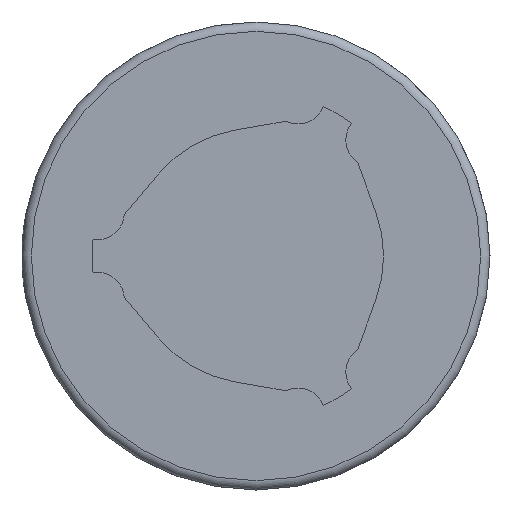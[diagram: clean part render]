
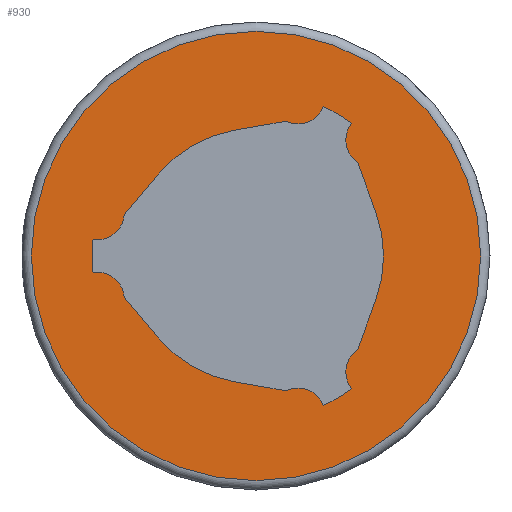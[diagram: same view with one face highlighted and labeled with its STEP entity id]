
A CAD part, left-side view. The second image highlights one B-rep face of the part: STEP entity #930.
In plain terms, the highlighted planar face has unit normal (-1, 0, 0).
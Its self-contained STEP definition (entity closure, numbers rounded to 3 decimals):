
#71=LINE('',#1439,#141);
#72=LINE('',#1448,#142);
#73=LINE('',#1452,#143);
#74=LINE('',#1460,#144);
#75=LINE('',#1464,#145);
#76=LINE('',#1472,#146);
#141=VECTOR('',#1135,1000.);
#142=VECTOR('',#1142,1000.);
#143=VECTOR('',#1145,1000.);
#144=VECTOR('',#1152,1000.);
#145=VECTOR('',#1155,1000.);
#146=VECTOR('',#1162,1000.);
#211=ORIENTED_EDGE('',*,*,#483,.F.);
#212=ORIENTED_EDGE('',*,*,#484,.T.);
#213=ORIENTED_EDGE('',*,*,#485,.F.);
#214=ORIENTED_EDGE('',*,*,#486,.T.);
#215=ORIENTED_EDGE('',*,*,#487,.F.);
#216=ORIENTED_EDGE('',*,*,#488,.T.);
#217=ORIENTED_EDGE('',*,*,#489,.T.);
#218=ORIENTED_EDGE('',*,*,#490,.T.);
#219=ORIENTED_EDGE('',*,*,#491,.F.);
#220=ORIENTED_EDGE('',*,*,#492,.T.);
#221=ORIENTED_EDGE('',*,*,#493,.F.);
#222=ORIENTED_EDGE('',*,*,#494,.T.);
#223=ORIENTED_EDGE('',*,*,#495,.T.);
#224=ORIENTED_EDGE('',*,*,#496,.T.);
#225=ORIENTED_EDGE('',*,*,#497,.F.);
#226=ORIENTED_EDGE('',*,*,#498,.T.);
#227=ORIENTED_EDGE('',*,*,#499,.F.);
#228=ORIENTED_EDGE('',*,*,#500,.T.);
#229=ORIENTED_EDGE('',*,*,#501,.T.);
#483=EDGE_CURVE('',#619,#619,#713,.T.);
#484=EDGE_CURVE('',#620,#621,#71,.T.);
#485=EDGE_CURVE('',#622,#621,#714,.T.);
#486=EDGE_CURVE('',#622,#623,#715,.T.);
#487=EDGE_CURVE('',#624,#623,#716,.T.);
#488=EDGE_CURVE('',#624,#625,#72,.T.);
#489=EDGE_CURVE('',#625,#626,#717,.T.);
#490=EDGE_CURVE('',#626,#627,#73,.T.);
#491=EDGE_CURVE('',#628,#627,#718,.T.);
#492=EDGE_CURVE('',#628,#629,#719,.T.);
#493=EDGE_CURVE('',#630,#629,#720,.T.);
#494=EDGE_CURVE('',#630,#631,#74,.T.);
#495=EDGE_CURVE('',#631,#632,#721,.T.);
#496=EDGE_CURVE('',#632,#633,#75,.T.);
#497=EDGE_CURVE('',#634,#633,#722,.T.);
#498=EDGE_CURVE('',#634,#635,#723,.T.);
#499=EDGE_CURVE('',#636,#635,#724,.T.);
#500=EDGE_CURVE('',#636,#637,#76,.T.);
#501=EDGE_CURVE('',#637,#620,#725,.T.);
#619=VERTEX_POINT('',#1438);
#620=VERTEX_POINT('',#1440);
#621=VERTEX_POINT('',#1441);
#622=VERTEX_POINT('',#1443);
#623=VERTEX_POINT('',#1445);
#624=VERTEX_POINT('',#1447);
#625=VERTEX_POINT('',#1449);
#626=VERTEX_POINT('',#1451);
#627=VERTEX_POINT('',#1453);
#628=VERTEX_POINT('',#1455);
#629=VERTEX_POINT('',#1457);
#630=VERTEX_POINT('',#1459);
#631=VERTEX_POINT('',#1461);
#632=VERTEX_POINT('',#1463);
#633=VERTEX_POINT('',#1465);
#634=VERTEX_POINT('',#1467);
#635=VERTEX_POINT('',#1469);
#636=VERTEX_POINT('',#1471);
#637=VERTEX_POINT('',#1473);
#713=CIRCLE('',#1013,48.);
#714=CIRCLE('',#1014,5.78);
#715=CIRCLE('',#1015,35.);
#716=CIRCLE('',#1016,5.78);
#717=CIRCLE('',#1017,27.25);
#718=CIRCLE('',#1018,5.78);
#719=CIRCLE('',#1019,35.);
#720=CIRCLE('',#1020,5.78);
#721=CIRCLE('',#1021,27.25);
#722=CIRCLE('',#1022,5.78);
#723=CIRCLE('',#1023,35.);
#724=CIRCLE('',#1024,5.78);
#725=CIRCLE('',#1025,27.25);
#772=EDGE_LOOP('',(#211));
#773=EDGE_LOOP('',(#212,#213,#214,#215,#216,#217,#218,#219,#220,#221,#222,
#223,#224,#225,#226,#227,#228,#229));
#840=FACE_BOUND('',#772,.T.);
#841=FACE_BOUND('',#773,.T.);
#908=PLANE('',#1012);
#930=ADVANCED_FACE('',(#840,#841),#908,.F.);
#1012=AXIS2_PLACEMENT_3D('',#1436,#1131,#1132);
#1013=AXIS2_PLACEMENT_3D('',#1437,#1133,#1134);
#1014=AXIS2_PLACEMENT_3D('',#1442,#1136,#1137);
#1015=AXIS2_PLACEMENT_3D('',#1444,#1138,#1139);
#1016=AXIS2_PLACEMENT_3D('',#1446,#1140,#1141);
#1017=AXIS2_PLACEMENT_3D('',#1450,#1143,#1144);
#1018=AXIS2_PLACEMENT_3D('',#1454,#1146,#1147);
#1019=AXIS2_PLACEMENT_3D('',#1456,#1148,#1149);
#1020=AXIS2_PLACEMENT_3D('',#1458,#1150,#1151);
#1021=AXIS2_PLACEMENT_3D('',#1462,#1153,#1154);
#1022=AXIS2_PLACEMENT_3D('',#1466,#1156,#1157);
#1023=AXIS2_PLACEMENT_3D('',#1468,#1158,#1159);
#1024=AXIS2_PLACEMENT_3D('',#1470,#1160,#1161);
#1025=AXIS2_PLACEMENT_3D('',#1474,#1163,#1164);
#1131=DIRECTION('',(1.,0.,0.));
#1132=DIRECTION('',(0.,0.,-1.));
#1133=DIRECTION('',(1.,0.,0.));
#1134=DIRECTION('',(0.,0.,-1.));
#1135=DIRECTION('',(0.,-0.985,0.174));
#1136=DIRECTION('',(1.,0.,0.));
#1137=DIRECTION('',(0.,0.,-1.));
#1138=DIRECTION('',(1.,0.,0.));
#1139=DIRECTION('',(0.,0.,-1.));
#1140=DIRECTION('',(1.,0.,0.));
#1141=DIRECTION('',(0.,0.,-1.));
#1142=DIRECTION('',(0.,-0.342,-0.94));
#1143=DIRECTION('',(1.,0.,0.));
#1144=DIRECTION('',(0.,0.,-1.));
#1145=DIRECTION('',(0.,0.342,-0.94));
#1146=DIRECTION('',(1.,0.,0.));
#1147=DIRECTION('',(0.,0.,-1.));
#1148=DIRECTION('',(1.,0.,0.));
#1149=DIRECTION('',(0.,0.,-1.));
#1150=DIRECTION('',(1.,0.,0.));
#1151=DIRECTION('',(0.,0.,-1.));
#1152=DIRECTION('',(0.,0.985,0.174));
#1153=DIRECTION('',(1.,0.,0.));
#1154=DIRECTION('',(0.,0.,-1.));
#1155=DIRECTION('',(0.,0.643,0.766));
#1156=DIRECTION('',(1.,0.,0.));
#1157=DIRECTION('',(0.,0.,-1.));
#1158=DIRECTION('',(1.,0.,0.));
#1159=DIRECTION('',(0.,0.,-1.));
#1160=DIRECTION('',(1.,0.,0.));
#1161=DIRECTION('',(0.,0.,-1.));
#1162=DIRECTION('',(0.,-0.643,0.766));
#1163=DIRECTION('',(1.,0.,0.));
#1164=DIRECTION('',(0.,0.,-1.));
#1436=CARTESIAN_POINT('',(0.,0.,0.));
#1437=CARTESIAN_POINT('',(0.,0.,0.));
#1438=CARTESIAN_POINT('',(0.,0.,-48.));
#1439=CARTESIAN_POINT('',(0.,4.732,26.836));
#1440=CARTESIAN_POINT('',(0.,4.732,26.836));
#1441=CARTESIAN_POINT('',(0.,-6.42,28.802));
#1442=CARTESIAN_POINT('',(0.,-8.947,34.001));
#1443=CARTESIAN_POINT('',(0.,-14.342,31.926));
#1444=CARTESIAN_POINT('',(0.,0.,0.));
#1445=CARTESIAN_POINT('',(0.,-20.478,28.384));
#1446=CARTESIAN_POINT('',(0.,-24.972,24.749));
#1447=CARTESIAN_POINT('',(0.,-21.733,19.961));
#1448=CARTESIAN_POINT('',(0.,-21.733,19.961));
#1449=CARTESIAN_POINT('',(0.,-25.607,9.32));
#1450=CARTESIAN_POINT('',(0.,0.,0.));
#1451=CARTESIAN_POINT('',(0.,-25.607,-9.32));
#1452=CARTESIAN_POINT('',(0.,-25.607,-9.32));
#1453=CARTESIAN_POINT('',(0.,-21.733,-19.961));
#1454=CARTESIAN_POINT('',(0.,-24.972,-24.749));
#1455=CARTESIAN_POINT('',(0.,-20.478,-28.384));
#1456=CARTESIAN_POINT('',(0.,0.,0.));
#1457=CARTESIAN_POINT('',(0.,-14.342,-31.926));
#1458=CARTESIAN_POINT('',(0.,-8.947,-34.001));
#1459=CARTESIAN_POINT('',(0.,-6.42,-28.802));
#1460=CARTESIAN_POINT('',(0.,-6.42,-28.802));
#1461=CARTESIAN_POINT('',(0.,4.732,-26.836));
#1462=CARTESIAN_POINT('',(0.,0.,0.));
#1463=CARTESIAN_POINT('',(0.,20.875,-17.516));
#1464=CARTESIAN_POINT('',(0.,20.875,-17.516));
#1465=CARTESIAN_POINT('',(0.,28.154,-8.841));
#1466=CARTESIAN_POINT('',(0.,33.919,-9.252));
#1467=CARTESIAN_POINT('',(0.,34.82,-3.543));
#1468=CARTESIAN_POINT('',(0.,0.,0.));
#1469=CARTESIAN_POINT('',(0.,34.82,3.543));
#1470=CARTESIAN_POINT('',(0.,33.919,9.252));
#1471=CARTESIAN_POINT('',(0.,28.154,8.841));
#1472=CARTESIAN_POINT('',(0.,28.154,8.841));
#1473=CARTESIAN_POINT('',(0.,20.875,17.516));
#1474=CARTESIAN_POINT('',(0.,0.,0.));
